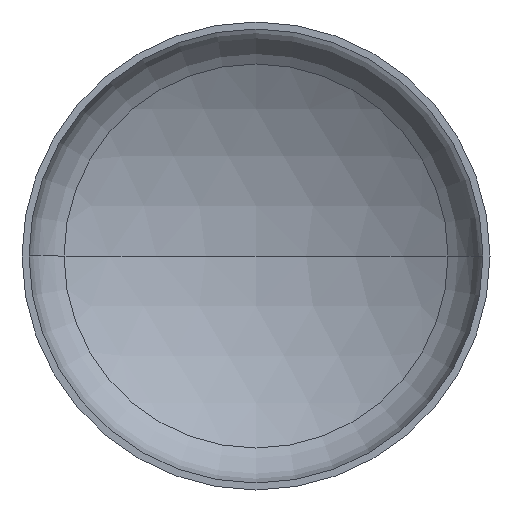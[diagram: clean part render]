
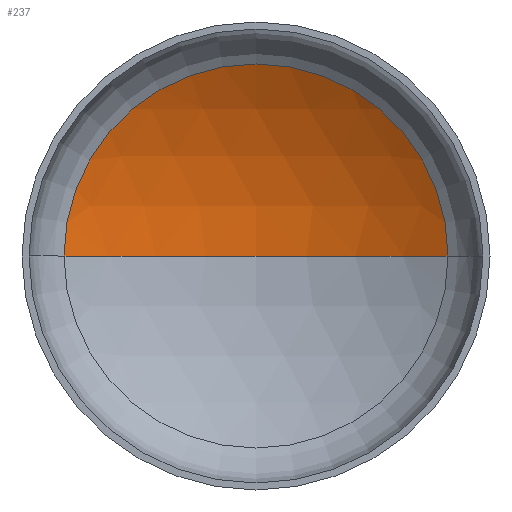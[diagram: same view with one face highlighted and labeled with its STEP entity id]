
A CAD part, front view. The second image highlights one B-rep face of the part: STEP entity #237.
In plain terms, the highlighted spherical face has radius 480 mm.
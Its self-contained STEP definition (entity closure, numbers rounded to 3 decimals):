
#30 = CARTESIAN_POINT ( 'NONE',  ( 0., -303.081, 0. ) ) ;
#32 = AXIS2_PLACEMENT_3D ( 'NONE', #30, #41, #386 ) ;
#36 = CIRCLE ( 'NONE', #45, 480. ) ;
#41 = DIRECTION ( 'NONE',  ( 0., 0., -1. ) ) ;
#43 = AXIS2_PLACEMENT_3D ( 'NONE', #250, #271, #266 ) ;
#45 = AXIS2_PLACEMENT_3D ( 'NONE', #216, #213, #214 ) ;
#50 = AXIS2_PLACEMENT_3D ( 'NONE', #289, #114, #315 ) ;
#51 = VERTEX_POINT ( 'NONE', #287 ) ;
#60 = CIRCLE ( 'NONE', #50, 246.186 ) ;
#64 = ORIENTED_EDGE ( 'NONE', *, *, #158, .T. ) ;
#114 = DIRECTION ( 'NONE',  ( 0., -1., 0. ) ) ;
#130 = EDGE_LOOP ( 'NONE', ( #238, #132, #64 ) ) ;
#132 = ORIENTED_EDGE ( 'NONE', *, *, #182, .T. ) ;
#144 = VERTEX_POINT ( 'NONE', #209 ) ;
#148 = SPHERICAL_SURFACE ( 'NONE', #32, 480. ) ;
#153 = VERTEX_POINT ( 'NONE', #317 ) ;
#158 = EDGE_CURVE ( 'NONE', #144, #51, #60, .T. ) ;
#175 = CIRCLE ( 'NONE', #43, 480. ) ;
#182 = EDGE_CURVE ( 'NONE', #153, #144, #36, .T. ) ;
#198 = EDGE_CURVE ( 'NONE', #153, #51, #175, .T. ) ;
#209 = CARTESIAN_POINT ( 'NONE',  ( 246.186, 108.978, 0. ) ) ;
#213 = DIRECTION ( 'NONE',  ( 0., 0., -1. ) ) ;
#214 = DIRECTION ( 'NONE',  ( -1., 0., 0. ) ) ;
#216 = CARTESIAN_POINT ( 'NONE',  ( 0., -303.081, 0. ) ) ;
#237 = ADVANCED_FACE ( 'NONE', ( #362 ), #148, .F. ) ;
#238 = ORIENTED_EDGE ( 'NONE', *, *, #198, .F. ) ;
#250 = CARTESIAN_POINT ( 'NONE',  ( 0., -303.081, 0. ) ) ;
#266 = DIRECTION ( 'NONE',  ( 1., 0., 0. ) ) ;
#271 = DIRECTION ( 'NONE',  ( 0., 0., 1. ) ) ;
#287 = CARTESIAN_POINT ( 'NONE',  ( -246.186, 108.978, 0. ) ) ;
#289 = CARTESIAN_POINT ( 'NONE',  ( 0., 108.978, 0. ) ) ;
#315 = DIRECTION ( 'NONE',  ( 1., 0., 0. ) ) ;
#317 = CARTESIAN_POINT ( 'NONE',  ( 0., 176.919, 0. ) ) ;
#362 = FACE_OUTER_BOUND ( 'NONE', #130, .T. ) ;
#386 = DIRECTION ( 'NONE',  ( -1., 0., 0. ) ) ;
